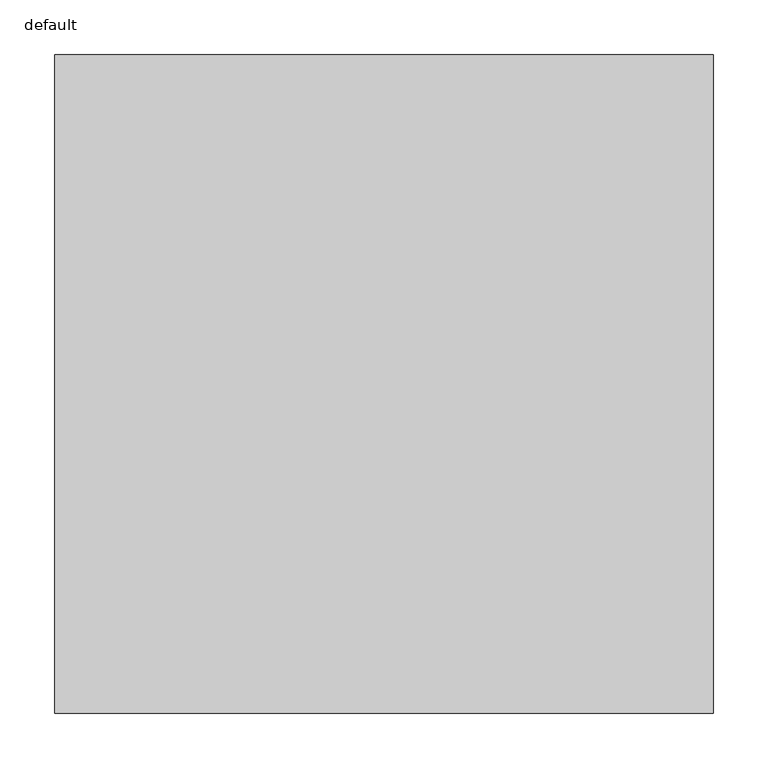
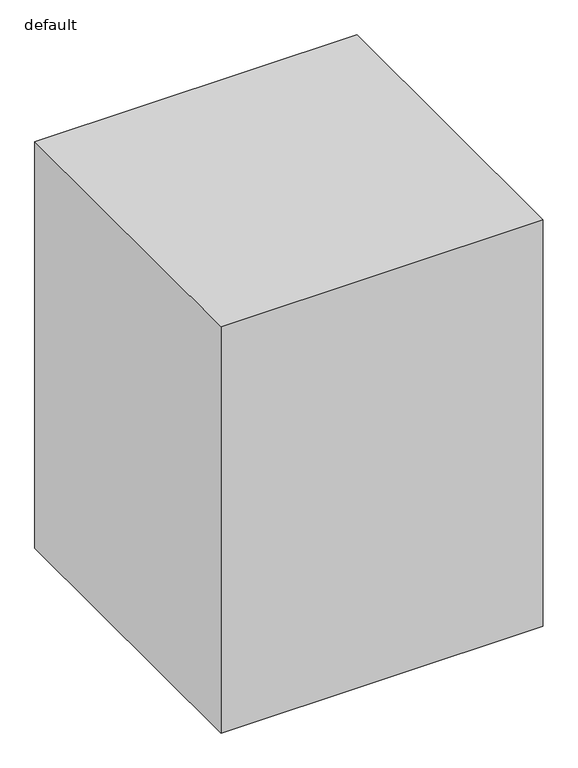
"""IFC4 building model written with IfcOpenShell, lengths in millimetres: furniture geometry, Fu_кухонный напольный модуль_LEG : default."""

from ifc_helpers import new_model, si_unit, origin, origin_with_axes, place, context, project, spatial, polyline, outline, extrude, source, transform, mapped, element, save


def default_5d1f57f7(model_context):
    return source(origin(), model_context, "Body", "SweptSolid", [
        extrude(outline(polyline([(600.0, 0.0), (0.0, 0.0), (0.0, 600.0), (600.0, 600.0), (600.0, 0.0)])), origin_with_axes(), (0.0, 0.0, 1.0), 800.0),
    ])


if __name__ == "__main__":
    model = new_model("IFC4")
    model_context = context("Model", 3, world=origin())
    ifc_project = project(units=[si_unit("LENGTHUNIT", "METRE", prefix="MILLI")], contexts=[model_context])
    site = spatial("IfcSite", under=ifc_project)
    building = spatial("IfcBuilding", under=site)
    placement = place(None, origin())
    default_shape = default_5d1f57f7(model_context)
    element("IfcFurniture", 1, ObjectType="Fu_кухонный напольный модуль_LEG : default", at=placement, inside=building, context=model_context, shape_type="MappedRepresentation", body=[
        mapped(default_shape, transform((0.0, 0.0, 0.0), x_axis=(1.0, 0.0, 0.0), y_axis=(0.0, 1.0, 0.0), z_axis=(0.0, 0.0, 1.0))),
    ])
    save(model, "model.ifc")
